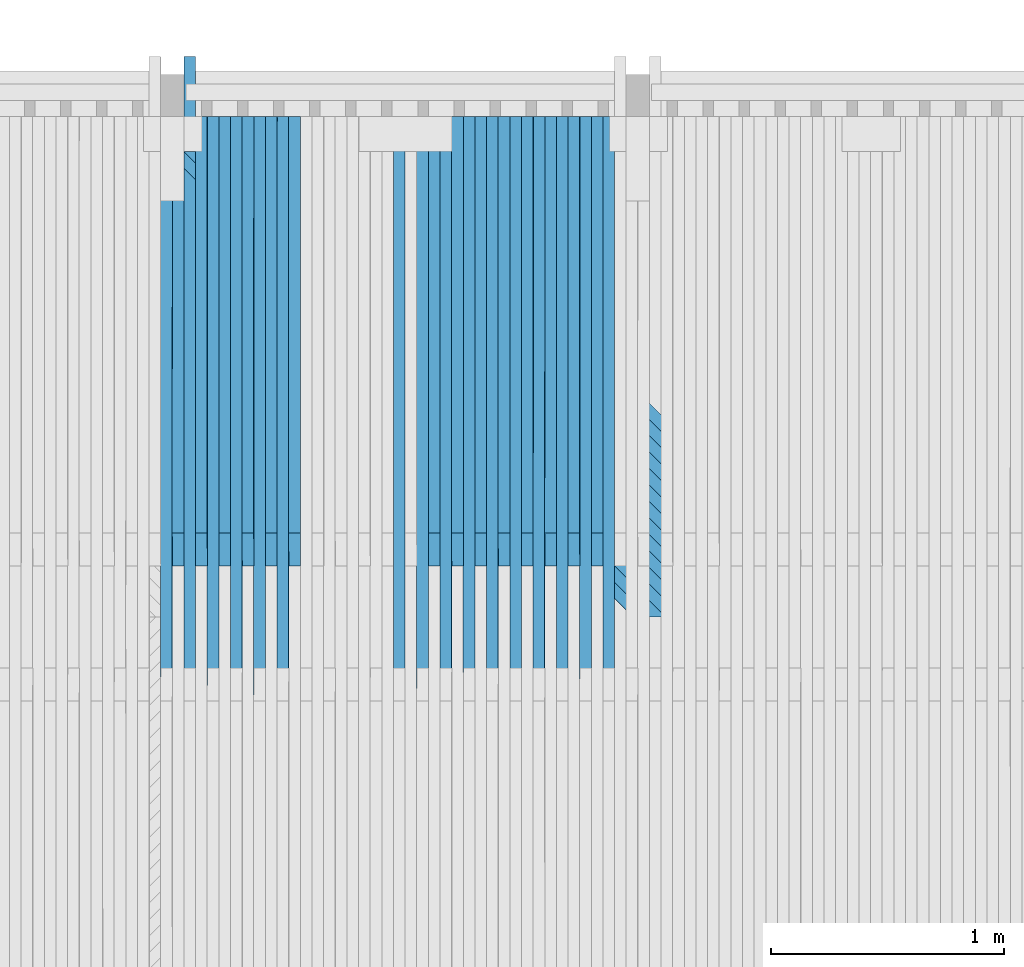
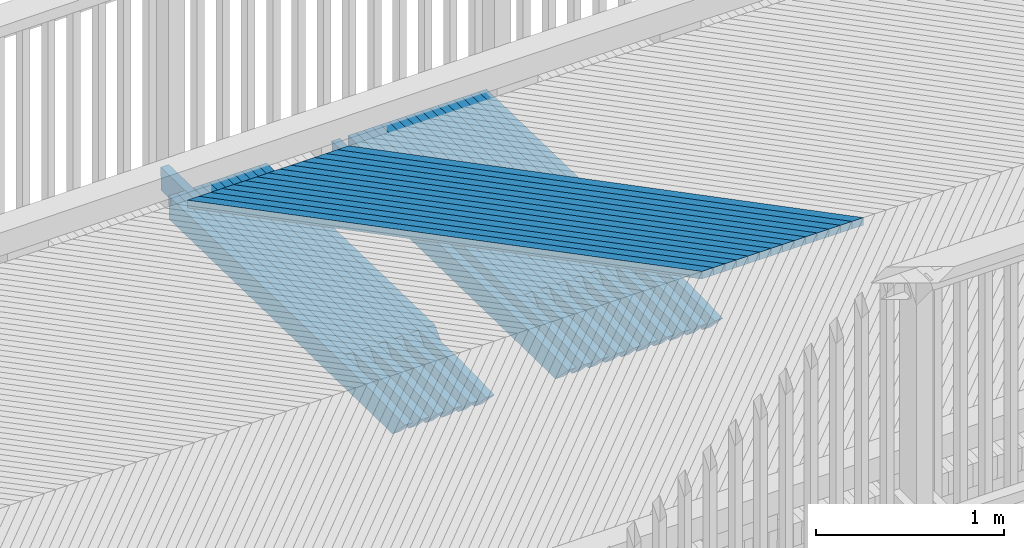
# One storey, part 25 of 52: 44 beams.
"""IFC2X3 building model written with IfcOpenShell, lengths in millimetres."""

from ifc_helpers import new_model, si_unit, frame, origin_with_axes, place, context, subcontext, project, spatial, faceted_brep, material, type_object, element, save


model = new_model("IFC2X3")

# Units and contexts
model_context = context("Model", 3, precision=1e-05, world=origin_with_axes())
body_context = subcontext(model_context, "Body", "Model", "MODEL_VIEW")
ifc_project = project(units=[si_unit("LENGTHUNIT", "METRE", prefix="MILLI"), si_unit("AREAUNIT", "SQUARE_METRE"), si_unit("VOLUMEUNIT", "CUBIC_METRE"), si_unit("MASSUNIT", "GRAM", prefix="KILO"), si_unit("TIMEUNIT", "SECOND"), si_unit("PLANEANGLEUNIT", "RADIAN"), si_unit("SOLIDANGLEUNIT", "STERADIAN"), si_unit("THERMODYNAMICTEMPERATUREUNIT", "DEGREE_CELSIUS"), si_unit("LUMINOUSINTENSITYUNIT", "LUMEN")], contexts=[model_context])

# Site, building, storey
site_placement = place(None, origin_with_axes())
site = spatial("IfcSite", under=ifc_project, at=site_placement, Name="Undefined", CompositionType="ELEMENT")
building_placement = place(site_placement, origin_with_axes())
building = spatial("IfcBuilding", under=site, at=building_placement, Name="Undefined", CompositionType="ELEMENT")
storey_placement = place(building_placement, origin_with_axes())
storey = spatial("IfcBuildingStorey", under=building, at=storey_placement, Name="Undefined", CompositionType="ELEMENT", Elevation=0.0)

# Beams
ifc_material = material(Name="TIMBER/Timber_Undefined")
beam_type_1 = type_object("IfcBeamType", Name="50*50", PredefinedType="NOTDEFINED")
for number, where, z_axis, x_axis, name in (
    (1, (6933.49514567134, 2365.49989967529, 3235.17752037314), (0.707136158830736, 0.706981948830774, -0.0116179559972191), (-0.707068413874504, 0.706948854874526, -0.016660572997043), "BEAM"),
    (2, (6862.77103065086, 2365.49989967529, 3235.04809435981), (0.707137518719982, 0.706981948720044, -0.0115348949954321), (-0.707066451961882, 0.706948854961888, -0.0167436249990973), "BEAM"),
    (3, (6792.04693132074, 2365.49989967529, 3234.91036104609), (0.707138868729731, 0.706981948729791, -0.0114518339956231), (-0.707064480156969, 0.706948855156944, -0.0168266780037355), "BEAM"),
    (4, (6721.32284865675, 2365.49989967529, 3234.76432043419), (0.707140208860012, 0.706981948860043, -0.0113687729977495), (-0.707062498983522, 0.706948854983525, -0.0169097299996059), "BEAM"),
    (5, (6650.59878363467, 2365.49989967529, 3234.60997252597), (0.707141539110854, 0.706981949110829, -0.0112857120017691), (-0.707060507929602, 0.706948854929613, -0.0169927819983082), "BEAM"),
    (6, (6579.8747372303, 2365.49989967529, 3234.44731732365), (0.707142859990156, 0.706981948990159, -0.0112026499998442), (-0.707058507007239, 0.706948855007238, -0.0170758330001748), "BEAM"),
    (7, (6509.1507104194, 2365.49989967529, 3234.27635482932), (0.707144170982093, 0.706981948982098, -0.0111195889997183), (-0.707056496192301, 0.706948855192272, -0.0171588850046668), "BEAM"),
    (8, (6438.42670417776, 2365.49989967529, 3234.09708504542), (0.707145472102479, 0.706981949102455, -0.0110365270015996), (-0.707054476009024, 0.706948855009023, -0.01724193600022), "BEAM"),
    (9, (6367.70271948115, 2365.49989967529, 3233.9095079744), (0.707146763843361, 0.706981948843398, -0.0109534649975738), (-0.707052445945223, 0.706948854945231, -0.0173249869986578), "BEAM"),
    (10, (6296.97875730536, 2365.49989967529, 3233.71362361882), (0.707148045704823, 0.706981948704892, -0.0108704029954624), (-0.707050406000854, 0.706948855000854, -0.0174080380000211), "BEAM"),
    (11, (6226.25481862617, 2365.49989967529, 3233.5094319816), (0.70714931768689, 0.706981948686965, -0.0107873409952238), (-0.707048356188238, 0.706948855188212, -0.0174910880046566), "BEAM"),
    (12, (6155.53090441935, 2365.49989967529, 3233.29693306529), (0.707150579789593, 0.706981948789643, -0.0107042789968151), (-0.707046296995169, 0.706948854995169, -0.01757413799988), "BEAM"),
    (13, (6084.80701566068, 2365.49989967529, 3233.07612687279), (0.707151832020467, 0.706981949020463, -0.0106212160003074), (-0.70704422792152, 0.706948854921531, -0.0176571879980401), "BEAM"),
    (14, (6014.08315332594, 2365.49989967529, 3232.84701340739), (0.707153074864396, 0.706981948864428, -0.010538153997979), (-0.707042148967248, 0.706948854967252, -0.0177402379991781), "BEAM"),
):
    element("IfcBeam", number, at=place(storey_placement, frame(where, z_axis=z_axis, x_axis=x_axis)), inside=storey, type_object=beam_type_1, material=ifc_material, Name=name, ObjectType="50*50", context=body_context, shape_type="Brep", body=[
        faceted_brep([(23.5869248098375, 25.0, -25.0000000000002), (-26.4154158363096, 25.0000000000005, 24.9999999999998), (2802.92643296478, 25.0, 24.9999999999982), (2852.92877373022, 25.0000000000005, -25.0), (-25.0011704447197, -25.0, 24.9999999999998), (2804.3406783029, -25.0000000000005, 24.9999999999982), (25.0011701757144, -25.0, -25.0), (2854.34301907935, -24.9999999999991, -25.0)], [[[0, 1, 2, 3]], [[1, 4, 5, 2]], [[4, 6, 7, 5]], [[6, 0, 3, 7]], [[5, 7, 3, 2]], [[6, 4, 1, 0]]]),
    ])
beam_type_2 = type_object("IfcBeamType", Name="150*50", PredefinedType="NOTDEFINED")
for number, where, z_axis, x_axis, name in (
    (15, (5875.95475998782, 4513.4953923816, 3089.40059139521), (-0.00361017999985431, 0.0199960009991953, 0.999793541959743), (-7.22040000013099e-05, -0.999800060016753, 0.019995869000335), "BEAM"),
    (16, (5775.93537890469, 4513.4953923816, 3089.0393605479), (-0.00377630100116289, 0.0199960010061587, 0.999792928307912), (-7.55270000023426e-05, -0.999800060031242, 0.0199958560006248), "BEAM"),
):
    element("IfcBeam", number, at=place(storey_placement, frame(where, z_axis=z_axis, x_axis=x_axis)), inside=storey, type_object=beam_type_2, material=ifc_material, Name=name, ObjectType="150*50", context=body_context, shape_type="Brep", body=[
        faceted_brep([(-1.67788130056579e-07, -24.9999999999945, -74.9999999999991), (-1.67787220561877e-07, 25.0000000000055, -75.0), (2375.00494422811, 25.0000000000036, -74.9999999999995), (2375.0049444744, -24.9999999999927, -74.9999999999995), (1.67786311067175e-07, -24.9999999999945, 75.0000000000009), (1.67786311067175e-07, 25.0000000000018, 75.0), (2150.42515052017, 25.0000000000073, 75.0), (2510.59248715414, 25.0000000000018, 60.5875433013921), (2510.5924871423, -24.9999999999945, 60.5875430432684), (2150.42514405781, -24.9999999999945, 75.0000000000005)], [[[0, 1, 2, 3]], [[0, 4, 5, 1]], [[2, 1, 5, 6, 7]], [[3, 2, 7, 8]], [[4, 0, 3, 8, 9]], [[5, 4, 9, 6]], [[8, 7, 6, 9]]]),
    ])
beam_1_placement = place(storey_placement, frame((5825.95508575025, 4513.49539238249, 3089.21997974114), z_axis=(-0.00361017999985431, 0.0199960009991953, 0.999793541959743), x_axis=(-7.22040000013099e-05, -0.999800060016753, 0.019995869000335)))
element("IfcBeam", 17, at=beam_1_placement, inside=storey, type_object=beam_type_2, material=ifc_material, Name="BEAM", ObjectType="150*50", context=body_context, shape_type="Brep", body=[
    faceted_brep([(-1.67788130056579e-07, -24.9999999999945, -74.9999999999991), (1.67786311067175e-07, -24.9999999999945, 75.0000000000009), (1.67786311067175e-07, 25.0000000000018, 75.0), (-1.67787220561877e-07, 25.0000000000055, -75.0), (1928.42646328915, 24.9999999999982, -74.9999999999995), (1928.42646353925, -25.0, -75.0), (1789.96936433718, -25.0000000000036, 74.9999999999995), (1789.96936408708, 24.9999999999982, 75.0000000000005)], [[[0, 1, 2, 3]], [[0, 3, 4, 5]], [[1, 0, 5, 6]], [[2, 1, 6, 7]], [[3, 2, 7, 4]], [[4, 7, 6, 5]]]),
])
beam_2_placement = place(storey_placement, frame((5675.91605922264, 4513.4953923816, 3088.66151095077), z_axis=(-0.00394242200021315, 0.0199960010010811, 0.999792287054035), x_axis=(-7.88490000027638e-05, -0.999800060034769, 0.0199958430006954)))
element("IfcBeam", 18, at=beam_2_placement, inside=storey, type_object=beam_type_2, material=ifc_material, Name="BEAM", ObjectType="150*50", context=body_context, shape_type="Brep", body=[
    faceted_brep([(-1.67788130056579e-07, -24.9999999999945, -74.9999999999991), (-1.67787220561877e-07, 25.0000000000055, -75.0), (2375.00494422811, 25.0000000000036, -74.9999999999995), (2375.0049444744, -24.9999999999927, -74.9999999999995), (1.67786311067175e-07, -24.9999999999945, 75.0000000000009), (1.67786311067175e-07, 25.0000000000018, 75.0), (2150.42515052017, 25.0000000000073, 75.0), (2510.59248715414, 25.0000000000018, 60.5875433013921), (2510.5924871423, -24.9999999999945, 60.5875430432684), (2150.42514405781, -24.9999999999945, 75.0000000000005)], [[[0, 1, 2, 3]], [[0, 4, 5, 1]], [[2, 1, 5, 6, 7]], [[3, 2, 7, 8]], [[4, 0, 3, 8, 9]], [[5, 4, 9, 6]], [[8, 7, 6, 9]]]),
])
beam_3_placement = place(storey_placement, frame((5725.9357353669, 4513.49539238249, 3088.8504411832), z_axis=(-0.00377630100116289, 0.0199960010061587, 0.999792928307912), x_axis=(-7.55270000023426e-05, -0.999800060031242, 0.0199958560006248)))
element("IfcBeam", 19, at=beam_3_placement, inside=storey, type_object=beam_type_2, material=ifc_material, Name="BEAM", ObjectType="150*50", context=body_context, shape_type="Brep", body=[
    faceted_brep([(-1.67788130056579e-07, -24.9999999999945, -74.9999999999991), (1.67786311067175e-07, -24.9999999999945, 75.0000000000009), (1.67786311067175e-07, 25.0000000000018, 75.0), (-1.67787220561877e-07, 25.0000000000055, -75.0), (1928.42646328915, 24.9999999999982, -74.9999999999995), (1928.42646353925, -25.0, -75.0), (1789.96936433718, -25.0000000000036, 74.9999999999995), (1789.96936408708, 24.9999999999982, 75.0000000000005)], [[[0, 1, 2, 3]], [[0, 3, 4, 5]], [[1, 0, 5, 6]], [[2, 1, 6, 7]], [[3, 2, 7, 4]], [[4, 7, 6, 5]]]),
])
beam_4_placement = place(storey_placement, frame((5575.89680370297, 4513.4953923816, 3088.2670426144), z_axis=(-0.00410854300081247, 0.0199960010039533, 0.999791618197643), x_axis=(-8.21720000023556e-05, -0.99980006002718, 0.0199958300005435)))
element("IfcBeam", 20, at=beam_4_placement, inside=storey, type_object=beam_type_2, material=ifc_material, Name="BEAM", ObjectType="150*50", context=body_context, shape_type="Brep", body=[
    faceted_brep([(-1.67788130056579e-07, -24.9999999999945, -74.9999999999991), (-1.67787220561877e-07, 25.0000000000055, -75.0), (2375.00494422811, 25.0000000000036, -74.9999999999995), (2375.0049444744, -24.9999999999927, -74.9999999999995), (1.67786311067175e-07, -24.9999999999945, 75.0000000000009), (1.67786311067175e-07, 25.0000000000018, 75.0), (2150.42515052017, 25.0000000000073, 75.0), (2510.59248715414, 25.0000000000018, 60.5875433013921), (2510.5924871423, -24.9999999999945, 60.5875430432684), (2150.42514405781, -24.9999999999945, 75.0000000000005)], [[[0, 1, 2, 3]], [[0, 4, 5, 1]], [[2, 1, 5, 6, 7]], [[3, 2, 7, 8]], [[4, 0, 3, 8, 9]], [[5, 4, 9, 6]], [[8, 7, 6, 9]]]),
])
beam_5_placement = place(storey_placement, frame((5625.916447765, 4513.49539238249, 3088.46428388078), z_axis=(-0.00394242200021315, 0.0199960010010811, 0.999792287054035), x_axis=(-7.88490000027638e-05, -0.999800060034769, 0.0199958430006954)))
element("IfcBeam", 21, at=beam_5_placement, inside=storey, type_object=beam_type_2, material=ifc_material, Name="BEAM", ObjectType="150*50", context=body_context, shape_type="Brep", body=[
    faceted_brep([(-1.67788130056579e-07, -24.9999999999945, -74.9999999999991), (1.67786311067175e-07, -24.9999999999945, 75.0000000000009), (1.67786311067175e-07, 25.0000000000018, 75.0), (-1.67787220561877e-07, 25.0000000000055, -75.0), (1928.42646328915, 24.9999999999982, -74.9999999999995), (1928.42646353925, -25.0, -75.0), (1789.96936433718, -25.0000000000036, 74.9999999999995), (1789.96936408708, 24.9999999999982, 75.0000000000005)], [[[0, 1, 2, 3]], [[0, 3, 4, 5]], [[1, 0, 5, 6]], [[2, 1, 6, 7]], [[3, 2, 7, 4]], [[4, 7, 6, 5]]]),
])
beam_6_placement = place(storey_placement, frame((5475.87761510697, 4513.4953923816, 3087.85595554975), z_axis=(-0.00427466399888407, 0.0199960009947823, 0.999790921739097), x_axis=(-8.54940000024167e-05, -0.999800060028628, 0.0199958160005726)))
element("IfcBeam", 22, at=beam_6_placement, inside=storey, type_object=beam_type_2, material=ifc_material, Name="BEAM", ObjectType="150*50", context=body_context, shape_type="Brep", body=[
    faceted_brep([(-1.67788130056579e-07, -24.9999999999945, -74.9999999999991), (-1.67787220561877e-07, 25.0000000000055, -75.0), (2375.00494422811, 25.0000000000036, -74.9999999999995), (2375.0049444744, -24.9999999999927, -74.9999999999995), (1.67786311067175e-07, -24.9999999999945, 75.0000000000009), (1.67786311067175e-07, 25.0000000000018, 75.0), (2150.42515052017, 25.0000000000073, 75.0), (2510.59248715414, 25.0000000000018, 60.5875433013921), (2510.5924871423, -24.9999999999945, 60.5875430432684), (2150.42514405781, -24.9999999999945, 75.0000000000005)], [[[0, 1, 2, 3]], [[0, 4, 5, 1]], [[2, 1, 5, 6, 7]], [[3, 2, 7, 8]], [[4, 0, 3, 8, 9]], [[5, 4, 9, 6]], [[8, 7, 6, 9]]]),
])
beam_7_placement = place(storey_placement, frame((5525.89722570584, 4513.49539238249, 3088.06150784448), z_axis=(-0.00410854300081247, 0.0199960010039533, 0.999791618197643), x_axis=(-8.21720000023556e-05, -0.99980006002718, 0.0199958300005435)))
element("IfcBeam", 23, at=beam_7_placement, inside=storey, type_object=beam_type_2, material=ifc_material, Name="BEAM", ObjectType="150*50", context=body_context, shape_type="Brep", body=[
    faceted_brep([(-1.67788130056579e-07, -24.9999999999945, -74.9999999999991), (1.67786311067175e-07, -24.9999999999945, 75.0000000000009), (1.67786311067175e-07, 25.0000000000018, 75.0), (-1.67787220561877e-07, 25.0000000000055, -75.0), (1928.42646328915, 24.9999999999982, -74.9999999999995), (1928.42646353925, -25.0, -75.0), (1789.96936433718, -25.0000000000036, 74.9999999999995), (1789.96936408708, 24.9999999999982, 75.0000000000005)], [[[0, 1, 2, 3]], [[0, 3, 4, 5]], [[1, 0, 5, 6]], [[2, 1, 6, 7]], [[3, 2, 7, 4]], [[4, 7, 6, 5]]]),
])
beam_8_placement = place(storey_placement, frame((5375.85849619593, 4513.4953923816, 3087.42824976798), z_axis=(-0.0044407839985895, 0.0199960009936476, 0.999790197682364), x_axis=(-8.88170000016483e-05, -0.999800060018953, 0.0199958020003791)))
element("IfcBeam", 24, at=beam_8_placement, inside=storey, type_object=beam_type_2, material=ifc_material, Name="BEAM", ObjectType="150*50", context=body_context, shape_type="Brep", body=[
    faceted_brep([(-1.67788130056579e-07, -24.9999999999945, -74.9999999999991), (-1.67787220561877e-07, 25.0000000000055, -75.0), (2375.00494422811, 25.0000000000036, -74.9999999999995), (2375.0049444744, -24.9999999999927, -74.9999999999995), (1.67786311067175e-07, -24.9999999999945, 75.0000000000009), (1.67786311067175e-07, 25.0000000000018, 75.0), (2150.42515052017, 25.0000000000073, 75.0), (2510.59248715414, 25.0000000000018, 60.5875433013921), (2510.5924871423, -24.9999999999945, 60.5875430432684), (2150.42514405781, -24.9999999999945, 75.0000000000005)], [[[0, 1, 2, 3]], [[0, 4, 5, 1]], [[2, 1, 5, 6, 7]], [[3, 2, 7, 8]], [[4, 0, 3, 8, 9]], [[5, 4, 9, 6]], [[8, 7, 6, 9]]]),
])
beam_9_placement = place(storey_placement, frame((5425.87807195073, 4513.49539238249, 3087.6421130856), z_axis=(-0.00427466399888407, 0.0199960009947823, 0.999790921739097), x_axis=(-8.54940000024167e-05, -0.999800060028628, 0.0199958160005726)))
element("IfcBeam", 25, at=beam_9_placement, inside=storey, type_object=beam_type_2, material=ifc_material, Name="BEAM", ObjectType="150*50", context=body_context, shape_type="Brep", body=[
    faceted_brep([(-1.67788130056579e-07, -24.9999999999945, -74.9999999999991), (1.67786311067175e-07, -24.9999999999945, 75.0000000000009), (1.67786311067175e-07, 25.0000000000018, 75.0), (-1.67787220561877e-07, 25.0000000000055, -75.0), (1928.42646328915, 24.9999999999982, -74.9999999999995), (1928.42646353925, -25.0, -75.0), (1789.96936433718, -25.0000000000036, 74.9999999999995), (1789.96936408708, 24.9999999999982, 75.0000000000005)], [[[0, 1, 2, 3]], [[0, 3, 4, 5]], [[1, 0, 5, 6]], [[2, 1, 6, 7]], [[3, 2, 7, 4]], [[4, 7, 6, 5]]]),
])
beam_10_placement = place(storey_placement, frame((5275.83944973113, 4513.4953923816, 3086.98392528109), z_axis=(-0.00460690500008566, 0.0199960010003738, 0.999789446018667), x_axis=(-9.21390000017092e-05, -0.999800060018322, 0.0199957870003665)))
element("IfcBeam", 26, at=beam_10_placement, inside=storey, type_object=beam_type_2, material=ifc_material, Name="BEAM", ObjectType="150*50", context=body_context, shape_type="Brep", body=[
    faceted_brep([(-1.67788130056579e-07, -24.9999999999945, -74.9999999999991), (-1.67787220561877e-07, 25.0000000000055, -75.0), (2375.00494422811, 25.0000000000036, -74.9999999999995), (2375.0049444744, -24.9999999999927, -74.9999999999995), (1.67786311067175e-07, -24.9999999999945, 75.0000000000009), (1.67786311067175e-07, 25.0000000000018, 75.0), (2150.42515052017, 25.0000000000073, 75.0), (2510.59248715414, 25.0000000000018, 60.5875433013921), (2510.5924871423, -24.9999999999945, 60.5875430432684), (2150.42514405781, -24.9999999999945, 75.0000000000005)], [[[0, 1, 2, 3]], [[0, 4, 5, 1]], [[2, 1, 5, 6, 7]], [[3, 2, 7, 8]], [[4, 0, 3, 8, 9]], [[5, 4, 9, 6]], [[8, 7, 6, 9]]]),
])
beam_11_placement = place(storey_placement, frame((5325.85898926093, 4513.49539238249, 3087.20609961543), z_axis=(-0.0044407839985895, 0.0199960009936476, 0.999790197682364), x_axis=(-8.88170000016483e-05, -0.999800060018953, 0.0199958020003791)))
element("IfcBeam", 27, at=beam_11_placement, inside=storey, type_object=beam_type_2, material=ifc_material, Name="BEAM", ObjectType="150*50", context=body_context, shape_type="Brep", body=[
    faceted_brep([(-1.67788130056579e-07, -24.9999999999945, -74.9999999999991), (1.67786311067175e-07, -24.9999999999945, 75.0000000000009), (1.67786311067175e-07, 25.0000000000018, 75.0), (-1.67787220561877e-07, 25.0000000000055, -75.0), (1928.42646328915, 24.9999999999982, -74.9999999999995), (1928.42646353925, -25.0, -75.0), (1789.96936433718, -25.0000000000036, 74.9999999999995), (1789.96936408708, 24.9999999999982, 75.0000000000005)], [[[0, 1, 2, 3]], [[0, 3, 4, 5]], [[1, 0, 5, 6]], [[2, 1, 6, 7]], [[3, 2, 7, 4]], [[4, 7, 6, 5]]]),
])
beam_12_placement = place(storey_placement, frame((5175.82047847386, 4513.4953923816, 3086.52298210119), z_axis=(-0.00477302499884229, 0.0199960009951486, 0.999788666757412), x_axis=(-9.54610000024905e-05, -0.999800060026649, 0.019995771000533)))
element("IfcBeam", 28, at=beam_12_placement, inside=storey, type_object=beam_type_2, material=ifc_material, Name="BEAM", ObjectType="150*50", context=body_context, shape_type="Brep", body=[
    faceted_brep([(-1.67788130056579e-07, -24.9999999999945, -74.9999999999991), (-1.67787220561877e-07, 25.0000000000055, -75.0), (2375.00494422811, 25.0000000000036, -74.9999999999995), (2375.0049444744, -24.9999999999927, -74.9999999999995), (1.67786311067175e-07, -24.9999999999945, 75.0000000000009), (1.67786311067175e-07, 25.0000000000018, 75.0), (2150.42515052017, 25.0000000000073, 75.0), (2510.59248715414, 25.0000000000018, 60.5875433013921), (2510.5924871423, -24.9999999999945, 60.5875430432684), (2150.42514405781, -24.9999999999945, 75.0000000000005)], [[[0, 1, 2, 3]], [[0, 4, 5, 1]], [[2, 1, 5, 6, 7]], [[3, 2, 7, 8]], [[4, 0, 3, 8, 9]], [[5, 4, 9, 6]], [[8, 7, 6, 9]]]),
])
beam_13_placement = place(storey_placement, frame((5225.83998039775, 4513.49539238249, 3086.75346744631), z_axis=(-0.00460690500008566, 0.0199960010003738, 0.999789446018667), x_axis=(-9.21390000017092e-05, -0.999800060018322, 0.0199957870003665)))
element("IfcBeam", 29, at=beam_13_placement, inside=storey, type_object=beam_type_2, material=ifc_material, Name="BEAM", ObjectType="150*50", context=body_context, shape_type="Brep", body=[
    faceted_brep([(-1.67788130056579e-07, -24.9999999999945, -74.9999999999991), (1.67786311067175e-07, -24.9999999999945, 75.0000000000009), (1.67786311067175e-07, 25.0000000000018, 75.0), (-1.67787220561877e-07, 25.0000000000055, -75.0), (1928.42646328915, 24.9999999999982, -74.9999999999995), (1928.42646353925, -25.0, -75.0), (1789.96936433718, -25.0000000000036, 74.9999999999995), (1789.96936408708, 24.9999999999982, 75.0000000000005)], [[[0, 1, 2, 3]], [[0, 3, 4, 5]], [[1, 0, 5, 6]], [[2, 1, 6, 7]], [[3, 2, 7, 4]], [[4, 7, 6, 5]]]),
])
beam_14_placement = place(storey_placement, frame((5075.8015851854, 4513.4953923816, 3086.04542024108), z_axis=(-0.004939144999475, 0.0199960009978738, 0.999787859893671), x_axis=(-9.87840000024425e-05, -0.999800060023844, 0.0199957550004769)))
element("IfcBeam", 30, at=beam_14_placement, inside=storey, type_object=beam_type_2, material=ifc_material, Name="BEAM", ObjectType="150*50", context=body_context, shape_type="Brep", body=[
    faceted_brep([(-1.67788130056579e-07, -24.9999999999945, -74.9999999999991), (-1.67787220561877e-07, 25.0000000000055, -75.0), (2375.00494422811, 25.0000000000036, -74.9999999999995), (2375.0049444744, -24.9999999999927, -74.9999999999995), (1.67786311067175e-07, -24.9999999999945, 75.0000000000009), (1.67786311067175e-07, 25.0000000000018, 75.0), (2150.42515052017, 25.0000000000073, 75.0), (2510.59248715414, 25.0000000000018, 60.5875433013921), (2510.5924871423, -24.9999999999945, 60.5875430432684), (2150.42514405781, -24.9999999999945, 75.0000000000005)], [[[0, 1, 2, 3]], [[0, 4, 5, 1]], [[2, 1, 5, 6, 7]], [[3, 2, 7, 8]], [[4, 0, 3, 8, 9]], [[5, 4, 9, 6]], [[8, 7, 6, 9]]]),
])
beam_15_placement = place(storey_placement, frame((5125.82104812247, 4513.49539238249, 3086.28421659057), z_axis=(-0.00477302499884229, 0.0199960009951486, 0.999788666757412), x_axis=(-9.54610000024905e-05, -0.999800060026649, 0.019995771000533)))
element("IfcBeam", 31, at=beam_15_placement, inside=storey, type_object=beam_type_2, material=ifc_material, Name="BEAM", ObjectType="150*50", context=body_context, shape_type="Brep", body=[
    faceted_brep([(-1.67788130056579e-07, -24.9999999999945, -74.9999999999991), (1.67786311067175e-07, -24.9999999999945, 75.0000000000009), (1.67786311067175e-07, 25.0000000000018, 75.0), (-1.67787220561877e-07, 25.0000000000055, -75.0), (1928.42646328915, 24.9999999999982, -74.9999999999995), (1928.42646353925, -25.0, -75.0), (1789.96936433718, -25.0000000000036, 74.9999999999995), (1789.96936408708, 24.9999999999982, 75.0000000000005)], [[[0, 1, 2, 3]], [[0, 3, 4, 5]], [[1, 0, 5, 6]], [[2, 1, 6, 7]], [[3, 2, 7, 4]], [[4, 7, 6, 5]]]),
])
for number, where, z_axis, x_axis, name in (
    (32, (4975.78277262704, 4513.4953923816, 3085.55123971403), (-0.00510526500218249, 0.0199960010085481, 0.999787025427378), (-0.000102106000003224, -0.999800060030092, 0.0199957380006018), "BEAM"),
    (33, (4475.69001743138, 4513.4953923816, 3082.83105756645), (-0.00593586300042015, 0.0199960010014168, 0.999782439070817), (-0.00011871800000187, -0.999800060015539, 0.0199956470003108), "BEAM"),
):
    element("IfcBeam", number, at=place(storey_placement, frame(where, z_axis=z_axis, x_axis=x_axis)), inside=storey, type_object=beam_type_2, material=ifc_material, Name=name, ObjectType="150*50", context=body_context, shape_type="Brep", body=[
        faceted_brep([(-1.67788130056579e-07, -24.9999999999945, -74.9999999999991), (-1.67787220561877e-07, 25.0000000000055, -75.0), (2375.00494422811, 25.0000000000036, -74.9999999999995), (2375.0049444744, -24.9999999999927, -74.9999999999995), (1.67786311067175e-07, -24.9999999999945, 75.0000000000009), (1.67786311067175e-07, 25.0000000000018, 75.0), (2150.42515052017, 25.0000000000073, 75.0), (2510.59248715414, 25.0000000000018, 60.5875433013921), (2510.5924871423, -24.9999999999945, 60.5875430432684), (2150.42514405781, -24.9999999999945, 75.0000000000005)], [[[0, 1, 2, 3]], [[0, 4, 5, 1]], [[2, 1, 5, 6, 7]], [[3, 2, 7, 8]], [[4, 0, 3, 8, 9]], [[5, 4, 9, 6]], [[8, 7, 6, 9]]]),
    ])
beam_16_placement = place(storey_placement, frame((4525.70921744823, 4513.49539238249, 3083.11971979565), z_axis=(-0.00576974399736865, 0.0199960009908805, 0.999783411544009), x_axis=(-0.00011539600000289, -0.999800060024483, 0.0199956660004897)))
element("IfcBeam", 34, at=beam_16_placement, inside=storey, type_object=beam_type_2, material=ifc_material, Name="BEAM", ObjectType="150*50", context=body_context, shape_type="Brep", body=[
    faceted_brep([(-1.67788130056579e-07, -24.9999999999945, -74.9999999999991), (1.67786311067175e-07, -24.9999999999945, 75.0000000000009), (1.67786311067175e-07, 25.0000000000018, 75.0), (-1.67787220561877e-07, 25.0000000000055, -75.0), (1928.42646328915, 24.9999999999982, -74.9999999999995), (1928.42646353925, -25.0, -75.0), (1789.96936433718, -25.0000000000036, 74.9999999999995), (1789.96936408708, 24.9999999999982, 75.0000000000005)], [[[0, 1, 2, 3]], [[0, 3, 4, 5]], [[1, 0, 5, 6]], [[2, 1, 6, 7]], [[3, 2, 7, 4]], [[4, 7, 6, 5]]]),
])
beam_17_placement = place(storey_placement, frame((4375.67174724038, 4513.4953923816, 3082.23716533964), z_axis=(-0.00610198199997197, 0.0199960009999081, 0.999781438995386), x_axis=(-0.000122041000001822, -0.999800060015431, 0.0199956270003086)))
element("IfcBeam", 35, at=beam_17_placement, inside=storey, type_object=beam_type_2, material=ifc_material, Name="BEAM", ObjectType="150*50", context=body_context, shape_type="Brep", body=[
    faceted_brep([(-1.67788130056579e-07, -24.9999999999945, -74.9999999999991), (-1.67787220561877e-07, 25.0000000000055, -75.0), (2375.00494422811, 25.0000000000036, -74.9999999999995), (2375.0049444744, -24.9999999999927, -74.9999999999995), (1.67786311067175e-07, -24.9999999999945, 75.0000000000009), (1.67786311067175e-07, 25.0000000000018, 75.0), (2150.42515052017, 25.0000000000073, 75.0), (2510.59248715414, 25.0000000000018, 60.5875433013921), (2510.5924871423, -24.9999999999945, 60.5875430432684), (2150.42514405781, -24.9999999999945, 75.0000000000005)], [[[0, 1, 2, 3]], [[0, 4, 5, 1]], [[2, 1, 5, 6, 7]], [[3, 2, 7, 8]], [[4, 0, 3, 8, 9]], [[5, 4, 9, 6]], [[8, 7, 6, 9]]]),
])
beam_18_placement = place(storey_placement, frame((4425.690898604, 4513.49539238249, 3082.53413852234), z_axis=(-0.00593586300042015, 0.0199960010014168, 0.999782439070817), x_axis=(-0.00011871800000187, -0.999800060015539, 0.0199956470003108)))
element("IfcBeam", 36, at=beam_18_placement, inside=storey, type_object=beam_type_2, material=ifc_material, Name="BEAM", ObjectType="150*50", context=body_context, shape_type="Brep", body=[
    faceted_brep([(-1.67788130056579e-07, -24.9999999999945, -74.9999999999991), (1.67786311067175e-07, -24.9999999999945, 75.0000000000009), (1.67786311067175e-07, 25.0000000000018, 75.0), (-1.67787220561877e-07, 25.0000000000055, -75.0), (1928.42646328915, 24.9999999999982, -74.9999999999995), (1928.42646353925, -25.0, -75.0), (1789.96936433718, -25.0000000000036, 74.9999999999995), (1789.96936408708, 24.9999999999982, 75.0000000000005)], [[[0, 1, 2, 3]], [[0, 3, 4, 5]], [[1, 0, 5, 6]], [[2, 1, 6, 7]], [[3, 2, 7, 4]], [[4, 7, 6, 5]]]),
])
beam_19_placement = place(storey_placement, frame((4275.65357710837, 4513.4953923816, 3081.62665455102), z_axis=(-0.00626810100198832, 0.0199960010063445, 0.999780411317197), x_axis=(-0.000125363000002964, -0.999800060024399, 0.0199956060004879)))
element("IfcBeam", 37, at=beam_19_placement, inside=storey, type_object=beam_type_2, material=ifc_material, Name="BEAM", ObjectType="150*50", context=body_context, shape_type="Brep", body=[
    faceted_brep([(-1.67788130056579e-07, -24.9999999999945, -74.9999999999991), (-1.67787220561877e-07, 25.0000000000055, -75.0), (2375.00494422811, 25.0000000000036, -74.9999999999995), (2375.0049444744, -24.9999999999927, -74.9999999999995), (1.67786311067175e-07, -24.9999999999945, 75.0000000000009), (1.67786311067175e-07, 25.0000000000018, 75.0), (2150.42515052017, 25.0000000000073, 75.0), (2510.59248715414, 25.0000000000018, 60.5875433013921), (2510.5924871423, -24.9999999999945, 60.5875430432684), (2150.42514405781, -24.9999999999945, 75.0000000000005)], [[[0, 1, 2, 3]], [[0, 4, 5, 1]], [[2, 1, 5, 6, 7]], [[3, 2, 7, 8]], [[4, 0, 3, 8, 9]], [[5, 4, 9, 6]], [[8, 7, 6, 9]]]),
])
beam_20_placement = place(storey_placement, frame((4325.67267843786, 4513.49539238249, 3081.93193867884), z_axis=(-0.00610198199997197, 0.0199960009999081, 0.999781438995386), x_axis=(-0.000122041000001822, -0.999800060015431, 0.0199956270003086)))
element("IfcBeam", 38, at=beam_20_placement, inside=storey, type_object=beam_type_2, material=ifc_material, Name="BEAM", ObjectType="150*50", context=body_context, shape_type="Brep", body=[
    faceted_brep([(-1.67788130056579e-07, -24.9999999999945, -74.9999999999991), (1.67786311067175e-07, -24.9999999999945, 75.0000000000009), (1.67786311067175e-07, 25.0000000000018, 75.0), (-1.67787220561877e-07, 25.0000000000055, -75.0), (1928.42646328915, 24.9999999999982, -74.9999999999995), (1928.42646353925, -25.0, -75.0), (1789.96936433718, -25.0000000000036, 74.9999999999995), (1789.96936408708, 24.9999999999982, 75.0000000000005)], [[[0, 1, 2, 3]], [[0, 3, 4, 5]], [[1, 0, 5, 6]], [[2, 1, 6, 7]], [[3, 2, 7, 4]], [[4, 7, 6, 5]]]),
])
beam_21_placement = place(storey_placement, frame((4175.63550979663, 4513.4953923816, 3080.99952521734), z_axis=(-0.00643422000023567, 0.0199960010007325, 0.999779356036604), x_axis=(-0.000128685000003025, -0.999800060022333, 0.0199955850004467)))
element("IfcBeam", 39, at=beam_21_placement, inside=storey, type_object=beam_type_2, material=ifc_material, Name="BEAM", ObjectType="150*50", context=body_context, shape_type="Brep", body=[
    faceted_brep([(-1.67788130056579e-07, -24.9999999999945, -74.9999999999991), (-1.67787220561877e-07, 25.0000000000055, -75.0), (2375.00494422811, 25.0000000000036, -74.9999999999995), (2375.0049444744, -24.9999999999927, -74.9999999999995), (1.67786311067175e-07, -24.9999999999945, 75.0000000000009), (1.67786311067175e-07, 25.0000000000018, 75.0), (2150.42515052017, 25.0000000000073, 75.0), (2510.59248715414, 25.0000000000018, 60.5875433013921), (2510.5924871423, -24.9999999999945, 60.5875430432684), (2150.42514405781, -24.9999999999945, 75.0000000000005)], [[[0, 1, 2, 3]], [[0, 4, 5, 1]], [[2, 1, 5, 6, 7]], [[3, 2, 7, 8]], [[4, 0, 3, 8, 9]], [[5, 4, 9, 6]], [[8, 7, 6, 9]]]),
])
for number, where, z_axis, x_axis, name in (
    (40, (4225.65455971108, 4513.49539238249, 3081.31312028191), (-0.00626810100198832, 0.0199960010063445, 0.999780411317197), (-0.000125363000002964, -0.999800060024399, 0.0199956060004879), "BEAM"),
    (41, (4125.63654518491, 4513.49539238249, 3080.67768334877), (-0.00643422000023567, 0.0199960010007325, 0.999779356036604), (-0.000128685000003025, -0.999800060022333, 0.0199955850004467), "BEAM"),
):
    element("IfcBeam", number, at=place(storey_placement, frame(where, z_axis=z_axis, x_axis=x_axis)), inside=storey, type_object=beam_type_2, material=ifc_material, Name=name, ObjectType="150*50", context=body_context, shape_type="Brep", body=[
        faceted_brep([(-1.67788130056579e-07, -24.9999999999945, -74.9999999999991), (1.67786311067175e-07, -24.9999999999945, 75.0000000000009), (1.67786311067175e-07, 25.0000000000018, 75.0), (-1.67787220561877e-07, 25.0000000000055, -75.0), (1928.42646328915, 24.9999999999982, -74.9999999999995), (1928.42646353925, -25.0, -75.0), (1789.96936433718, -25.0000000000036, 74.9999999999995), (1789.96936408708, 24.9999999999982, 75.0000000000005)], [[[0, 1, 2, 3]], [[0, 3, 4, 5]], [[1, 0, 5, 6]], [[2, 1, 6, 7]], [[3, 2, 7, 4]], [[4, 7, 6, 5]]]),
    ])
beam_22_placement = place(storey_placement, frame((3975.59969467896, 4513.4953923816, 3079.69541098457), z_axis=(-0.0067664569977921, 0.0199960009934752, 0.999777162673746), x_axis=(-0.000135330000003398, -0.999800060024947, 0.019995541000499)))
element("IfcBeam", 42, at=beam_22_placement, inside=storey, type_object=beam_type_2, material=ifc_material, Name="BEAM", ObjectType="150*50", context=body_context, shape_type="Brep", body=[
    faceted_brep([(-1.67788130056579e-07, -24.9999999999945, -74.9999999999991), (-1.67787220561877e-07, 25.0000000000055, -75.0), (2375.00494422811, 25.0000000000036, -74.9999999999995), (2375.0049444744, -24.9999999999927, -74.9999999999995), (1.67786311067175e-07, -24.9999999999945, 75.0000000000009), (1.67786311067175e-07, 25.0000000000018, 75.0), (2150.42515052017, 25.0000000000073, 75.0), (2510.59248715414, 25.0000000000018, 60.5875433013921), (2510.5924871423, -24.9999999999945, 60.5875430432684), (2150.42514405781, -24.9999999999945, 75.0000000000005)], [[[0, 1, 2, 3]], [[0, 4, 5, 1]], [[2, 1, 5, 6, 7]], [[3, 2, 7, 8]], [[4, 0, 3, 8, 9]], [[5, 4, 9, 6]], [[8, 7, 6, 9]]]),
])
beam_23_placement = place(storey_placement, frame((4025.61863762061, 4513.49539238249, 3080.02562789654), z_axis=(-0.00660033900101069, 0.0199960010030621, 0.999778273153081), x_axis=(-0.000132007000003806, -0.999800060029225, 0.0199955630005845)))
element("IfcBeam", 43, at=beam_23_placement, inside=storey, type_object=beam_type_2, material=ifc_material, Name="BEAM", ObjectType="150*50", context=body_context, shape_type="Brep", body=[
    faceted_brep([(-1.67788130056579e-07, -24.9999999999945, -74.9999999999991), (1.67786311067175e-07, -24.9999999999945, 75.0000000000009), (1.67786311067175e-07, 25.0000000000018, 75.0), (-1.67787220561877e-07, 25.0000000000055, -75.0), (1928.42646328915, 24.9999999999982, -74.9999999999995), (1928.42646353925, -25.0, -75.0), (1789.96936433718, -25.0000000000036, 74.9999999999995), (1789.96936408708, 24.9999999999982, 75.0000000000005)], [[[0, 1, 2, 3]], [[0, 3, 4, 5]], [[1, 0, 5, 6]], [[2, 1, 6, 7]], [[3, 2, 7, 4]], [[4, 7, 6, 5]]]),
])
beam_24_placement = place(storey_placement, frame((4075.44148607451, 4771.44380785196, 3075.1954858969), z_axis=(-0.00660033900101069, 0.0199960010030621, 0.999778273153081), x_axis=(-0.000132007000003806, -0.999800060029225, 0.0199955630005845)))
element("IfcBeam", 44, at=beam_24_placement, inside=storey, type_object=beam_type_2, material=ifc_material, Name="BEAM", ObjectType="150*50", context=body_context, shape_type="Brep", body=[
    faceted_brep([(-1.67788130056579e-07, -24.9999999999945, -74.9999999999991), (-1.67787220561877e-07, 25.0000000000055, -75.0), (2633.00494750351, 25.0, -74.9999999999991), (2633.00494763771, -25.0, -74.9999999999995), (1.67786311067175e-07, -24.9999999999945, 75.0000000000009), (1.67786311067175e-07, 25.0000000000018, 75.0), (2408.42506824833, 25.0, 75.0000000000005), (2768.59248710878, 24.9999999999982, 60.5875398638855), (2768.59248713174, -25.0, 60.5875397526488), (2408.42506549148, -25.0, 75.0000000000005)], [[[0, 1, 2, 3]], [[0, 4, 5, 1]], [[2, 1, 5, 6, 7]], [[3, 2, 7, 8]], [[4, 0, 3, 8, 9]], [[5, 4, 9, 6]], [[8, 7, 6, 9]]]),
])

save(model, "model.ifc")
